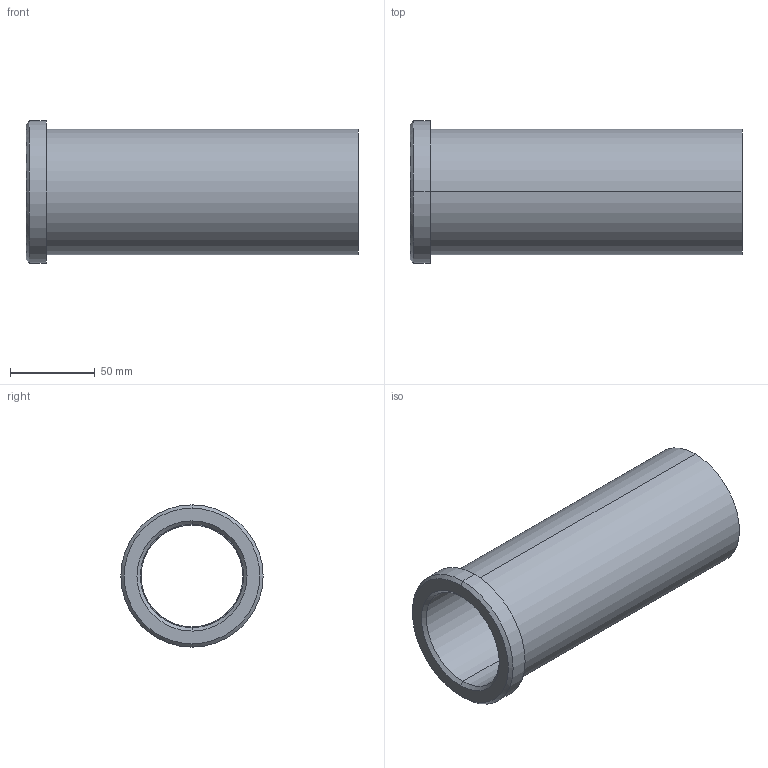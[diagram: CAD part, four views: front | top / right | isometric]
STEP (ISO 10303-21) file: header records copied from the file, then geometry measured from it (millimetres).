
FILE_DESCRIPTION(('CATIA V5 STEP Exchange'),'2;1');
FILE_NAME('C:\Users\Utente\Desktop\IO LAVORO\3D X SITO CF\X SITO\PLASTICA\353\353-60X196.stp','2021-05-14T18:01:32+00:00',('none'),('none'),'CATIA Version 5 Release 20 GA (IN-10)','CATIA V5 STEP AP203','none');
FILE_SCHEMA(('CONFIG_CONTROL_DESIGN'));
Length unit declared in the file: millimetre
Products named in the file (1): 353-60x196
Bounding box: 196 x 84 x 84 mm (x, y, z)
Volume: 295173.1 mm3; surface area: 87782.8 mm2
Topology: 1 solids, 1 shells, 18 faces, 58 edges, 44 vertices
Faces by surface type: cylinder 8, plane 4, cone 4, torus 2
Entity records: 840 total; most frequent: CARTESIAN_POINT 289, ORIENTED_EDGE 116, DIRECTION 82, EDGE_CURVE 58, AXIS2_PLACEMENT_3D 53, VERTEX_POINT 44, CIRCLE 34, EDGE_LOOP 22
